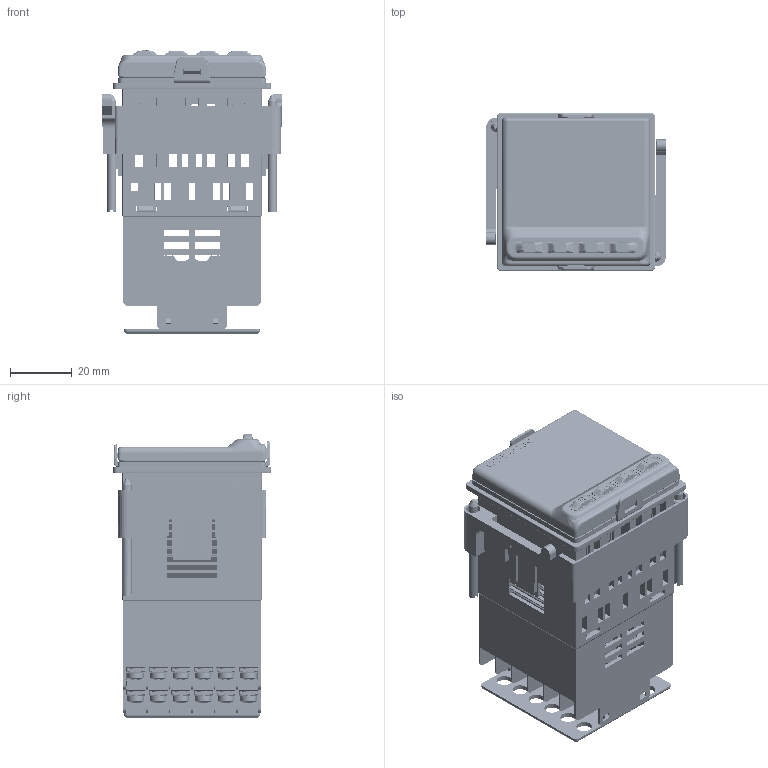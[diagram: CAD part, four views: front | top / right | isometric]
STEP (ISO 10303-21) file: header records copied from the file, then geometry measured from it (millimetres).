
FILE_DESCRIPTION((''),'2;1');
FILE_NAME('4848L_ASSY','2020-01-07T14:34:23',('paolo.garatti'),('GEFRAN S.p.A via Carducci,24 21040 Gerenzano (VA)'),'CREO PARAMETRIC BY PTC INC, 2018300','CREO PARAMETRIC BY PTC INC, 2018300','');
FILE_SCHEMA(('AUTOMOTIVE_DESIGN { 1 0 10303 214 1 1 1 1 }'));
Products named in the file (38): DIS00290_51952; DIS00290_51951; DIS00290_51976S; A1924_PRINTINGS; A1924; DIS00343_51980; A1925_P3; A1925_3; 48_CST_FLEX; 48_CST_TACT; DIS00166_51953A; A1926_2; DIS-00214-0X-GUARNIZIONE-48X48; DIS00214_51968A; DIS-00161_0X_LCD_FOSSATI; DIS-00221-0X-SCH-DISPLAY-650; 4848_DISPLAY_CPU; DIS00167_51954A; DIS00168_51955A; 4915D_51600; DIS00919_04; DIS00919_56352; 1455D_48213_PLATE; 1455D_48213_SCREW; 1455D_48213; 46007; A1921_CG41; DIS00919_56248; A1921_CN41; A1922; 4848_51294; 1833D_51292A_MOUNTED; 4848_FLA950; MIM8117; 51250; 4848L_ASSY
Assembly tree (66 placements, depth 5):
  4848L_ASSY
    A1926_2
      A1924
        DIS00290_51976S
          DIS00290_51952
          DIS00290_51951
        A1924_PRINTINGS
      A1925_3
        DIS00343_51980
          DIS00343_51980
        A1925_P3
      48_CST_FLEX
        48_CST_FLEX
        48_CST_TACT  x4
      DIS00166_51953A
    DIS-00214-0X-GUARNIZIONE-48X48
    DIS00214_51968A
    4848_DISPLAY_CPU
      DIS-00161_0X_LCD_FOSSATI
      DIS-00221-0X-SCH-DISPLAY-650
    DIS00167_51954A
    DIS00168_51955A
    A1922
      4915D_51600
      A1921_CG41  x4
        DIS00919_56352
          DIS00919_04
        1455D_48213
          1455D_48213_PLATE
          1455D_48213_SCREW
        46007
      A1921_CN41  x20
        DIS00919_56248
          DIS00919_04
        1455D_48213
          1455D_48213_PLATE
          1455D_48213_SCREW
        46007
    4848_51294
    1833D_51292A_MOUNTED
    51250
      4848_FLA950
      MIM8117  x2
Bounding box: 58 x 51 x 91.58 mm (x, y, z)
Volume: 65554.1 mm3; surface area: 103394.5 mm2
Topology: 136 solids, 136 shells, 12004 faces, 31063 edges, 19515 vertices
Faces by surface type: plane 7218, cylinder 2830, bspline 943, cone 579, torus 278, extrusion 104, sphere 52
Entity records: 265974 total; most frequent: CARTESIAN_POINT 52489, ORIENTED_EDGE 30542, DIRECTION 26927, PRESENTATION_STYLE_ASSIGNMENT 17035, STYLED_ITEM 16551, EDGE_CURVE 15271, CURVE_STYLE 14810, VECTOR 12631
